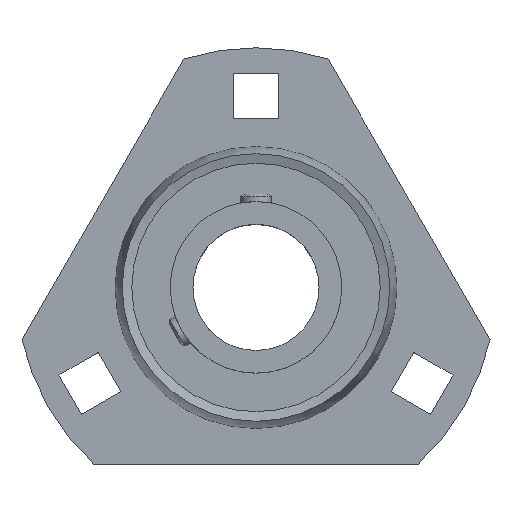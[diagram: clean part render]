
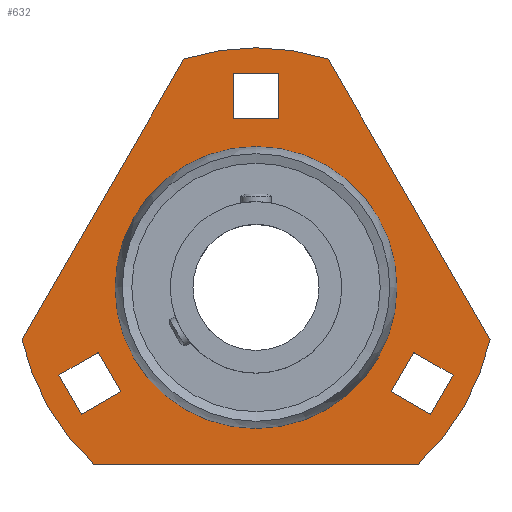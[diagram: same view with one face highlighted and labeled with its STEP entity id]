
A CAD part, top view. The second image highlights one B-rep face of the part: STEP entity #632.
In plain terms, the highlighted planar face has unit normal (0, 0, 1).
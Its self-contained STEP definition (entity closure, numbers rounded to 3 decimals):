
#122=CARTESIAN_POINT('',(-46.367,-10.311,2.0));
#123=VERTEX_POINT('',#122);
#130=CARTESIAN_POINT('',(-14.254,45.311,2.0));
#131=VERTEX_POINT('',#130);
#132=CARTESIAN_POINT('',(-46.367,-10.311,2.0));
#133=DIRECTION('',(0.5,0.866,0.0));
#134=VECTOR('',#133,64.226);
#135=LINE('',#132,#134);
#136=EDGE_CURVE('',#123,#131,#135,.T.);
#162=CARTESIAN_POINT('',(14.254,45.311,2.0));
#163=VERTEX_POINT('',#162);
#170=CARTESIAN_POINT('',(46.367,-10.311,2.0));
#171=VERTEX_POINT('',#170);
#172=CARTESIAN_POINT('',(14.254,45.311,2.0));
#173=DIRECTION('',(0.5,-0.866,0.0));
#174=VECTOR('',#173,64.226);
#175=LINE('',#172,#174);
#176=EDGE_CURVE('',#163,#171,#175,.T.);
#202=CARTESIAN_POINT('',(32.113,-35.,2.0));
#203=VERTEX_POINT('',#202);
#210=CARTESIAN_POINT('',(-32.113,-35.0,2.0));
#211=VERTEX_POINT('',#210);
#212=CARTESIAN_POINT('',(32.113,-35.0,2.0));
#213=DIRECTION('',(-1.0,0.0,0.0));
#214=VECTOR('',#213,64.226);
#215=LINE('',#212,#214);
#216=EDGE_CURVE('',#203,#211,#215,.T.);
#378=CARTESIAN_POINT('',(0.0,0.0,2.0));
#379=DIRECTION('',(0.0,0.0,-1.0));
#380=DIRECTION('',(-1.0,0.0,0.0));
#381=AXIS2_PLACEMENT_3D('',#378,#379,#380);
#382=CIRCLE('',#381,47.5);
#383=EDGE_CURVE('',#211,#123,#382,.T.);
#396=CARTESIAN_POINT('',(0.0,0.0,2.0));
#397=DIRECTION('',(0.0,0.0,-1.0));
#398=DIRECTION('',(-1.0,0.0,0.0));
#399=AXIS2_PLACEMENT_3D('',#396,#397,#398);
#400=CIRCLE('',#399,47.5);
#401=EDGE_CURVE('',#171,#203,#400,.T.);
#493=CARTESIAN_POINT('',(0.0,27.93,2.));
#494=VERTEX_POINT('',#493);
#495=CARTESIAN_POINT('',(0.0,0.0,2.0));
#496=DIRECTION('',(0.0,0.0,-1.0));
#497=DIRECTION('',(0.0,1.0,0.0));
#498=AXIS2_PLACEMENT_3D('',#495,#496,#497);
#499=CIRCLE('',#498,27.93);
#500=EDGE_CURVE('',#494,#494,#499,.T.);
#508=CARTESIAN_POINT('',(0.0,0.0,2.0));
#509=DIRECTION('',(0.0,0.0,-1.0));
#510=DIRECTION('',(-1.0,0.0,0.0));
#511=AXIS2_PLACEMENT_3D('',#508,#509,#510);
#512=PLANE('',#511);
#513=ORIENTED_EDGE('',*,*,#176,.F.);
#514=CARTESIAN_POINT('',(0.0,0.0,2.0));
#515=DIRECTION('',(0.0,0.0,-1.0));
#516=DIRECTION('',(-1.0,0.0,0.0));
#517=AXIS2_PLACEMENT_3D('',#514,#515,#516);
#518=CIRCLE('',#517,47.5);
#519=EDGE_CURVE('',#131,#163,#518,.T.);
#520=ORIENTED_EDGE('',*,*,#519,.F.);
#521=ORIENTED_EDGE('',*,*,#136,.F.);
#522=ORIENTED_EDGE('',*,*,#383,.F.);
#523=ORIENTED_EDGE('',*,*,#216,.F.);
#524=ORIENTED_EDGE('',*,*,#401,.F.);
#525=EDGE_LOOP('',(#513,#520,#521,#522,#523,#524));
#526=FACE_OUTER_BOUND('',#525,.T.);
#527=CARTESIAN_POINT('',(4.5,42.5,2.0));
#528=VERTEX_POINT('',#527);
#529=CARTESIAN_POINT('',(4.5,33.5,2.0));
#530=VERTEX_POINT('',#529);
#531=CARTESIAN_POINT('',(4.5,42.5,2.0));
#532=DIRECTION('',(0.0,-1.0,0.0));
#533=VECTOR('',#532,9.0);
#534=LINE('',#531,#533);
#535=EDGE_CURVE('',#528,#530,#534,.T.);
#536=ORIENTED_EDGE('',*,*,#535,.T.);
#537=CARTESIAN_POINT('',(-4.5,33.5,2.0));
#538=VERTEX_POINT('',#537);
#539=CARTESIAN_POINT('',(4.5,33.5,2.0));
#540=DIRECTION('',(-1.0,0.0,0.0));
#541=VECTOR('',#540,9.0);
#542=LINE('',#539,#541);
#543=EDGE_CURVE('',#530,#538,#542,.T.);
#544=ORIENTED_EDGE('',*,*,#543,.T.);
#545=CARTESIAN_POINT('',(-4.5,42.5,2.0));
#546=VERTEX_POINT('',#545);
#547=CARTESIAN_POINT('',(-4.5,33.5,2.0));
#548=DIRECTION('',(0.0,1.0,0.0));
#549=VECTOR('',#548,9.0);
#550=LINE('',#547,#549);
#551=EDGE_CURVE('',#538,#546,#550,.T.);
#552=ORIENTED_EDGE('',*,*,#551,.T.);
#553=CARTESIAN_POINT('',(-4.5,42.5,2.0));
#554=DIRECTION('',(1.0,0.0,0.0));
#555=VECTOR('',#554,9.0);
#556=LINE('',#553,#555);
#557=EDGE_CURVE('',#546,#528,#556,.T.);
#558=ORIENTED_EDGE('',*,*,#557,.T.);
#559=EDGE_LOOP('',(#536,#544,#552,#558));
#560=FACE_BOUND('',#559,.T.);
#561=CARTESIAN_POINT('',(-39.056,-17.353,2.0));
#562=VERTEX_POINT('',#561);
#563=CARTESIAN_POINT('',(-31.262,-12.853,2.0));
#564=VERTEX_POINT('',#563);
#565=CARTESIAN_POINT('',(-39.056,-17.353,2.0));
#566=DIRECTION('',(0.866,0.5,0.0));
#567=VECTOR('',#566,9.);
#568=LINE('',#565,#567);
#569=EDGE_CURVE('',#562,#564,#568,.T.);
#570=ORIENTED_EDGE('',*,*,#569,.T.);
#571=CARTESIAN_POINT('',(-26.762,-20.647,2.0));
#572=VERTEX_POINT('',#571);
#573=CARTESIAN_POINT('',(-31.262,-12.853,2.0));
#574=DIRECTION('',(0.5,-0.866,0.0));
#575=VECTOR('',#574,9.);
#576=LINE('',#573,#575);
#577=EDGE_CURVE('',#564,#572,#576,.T.);
#578=ORIENTED_EDGE('',*,*,#577,.T.);
#579=CARTESIAN_POINT('',(-34.556,-25.147,2.0));
#580=VERTEX_POINT('',#579);
#581=CARTESIAN_POINT('',(-26.762,-20.647,2.0));
#582=DIRECTION('',(-0.866,-0.5,0.0));
#583=VECTOR('',#582,9.);
#584=LINE('',#581,#583);
#585=EDGE_CURVE('',#572,#580,#584,.T.);
#586=ORIENTED_EDGE('',*,*,#585,.T.);
#587=CARTESIAN_POINT('',(-34.556,-25.147,2.0));
#588=DIRECTION('',(-0.5,0.866,0.0));
#589=VECTOR('',#588,9.0);
#590=LINE('',#587,#589);
#591=EDGE_CURVE('',#580,#562,#590,.T.);
#592=ORIENTED_EDGE('',*,*,#591,.T.);
#593=EDGE_LOOP('',(#570,#578,#586,#592));
#594=FACE_BOUND('',#593,.T.);
#595=CARTESIAN_POINT('',(34.556,-25.147,2.0));
#596=VERTEX_POINT('',#595);
#597=CARTESIAN_POINT('',(26.762,-20.647,2.0));
#598=VERTEX_POINT('',#597);
#599=CARTESIAN_POINT('',(34.556,-25.147,2.0));
#600=DIRECTION('',(-0.866,0.5,0.0));
#601=VECTOR('',#600,9.);
#602=LINE('',#599,#601);
#603=EDGE_CURVE('',#596,#598,#602,.T.);
#604=ORIENTED_EDGE('',*,*,#603,.T.);
#605=CARTESIAN_POINT('',(31.262,-12.853,2.0));
#606=VERTEX_POINT('',#605);
#607=CARTESIAN_POINT('',(26.762,-20.647,2.0));
#608=DIRECTION('',(0.5,0.866,0.0));
#609=VECTOR('',#608,9.);
#610=LINE('',#607,#609);
#611=EDGE_CURVE('',#598,#606,#610,.T.);
#612=ORIENTED_EDGE('',*,*,#611,.T.);
#613=CARTESIAN_POINT('',(39.056,-17.353,2.0));
#614=VERTEX_POINT('',#613);
#615=CARTESIAN_POINT('',(31.262,-12.853,2.0));
#616=DIRECTION('',(0.866,-0.5,0.0));
#617=VECTOR('',#616,9.);
#618=LINE('',#615,#617);
#619=EDGE_CURVE('',#606,#614,#618,.T.);
#620=ORIENTED_EDGE('',*,*,#619,.T.);
#621=CARTESIAN_POINT('',(39.056,-17.353,2.0));
#622=DIRECTION('',(-0.5,-0.866,0.0));
#623=VECTOR('',#622,9.0);
#624=LINE('',#621,#623);
#625=EDGE_CURVE('',#614,#596,#624,.T.);
#626=ORIENTED_EDGE('',*,*,#625,.T.);
#627=EDGE_LOOP('',(#604,#612,#620,#626));
#628=FACE_BOUND('',#627,.T.);
#629=ORIENTED_EDGE('',*,*,#500,.T.);
#630=EDGE_LOOP('',(#629));
#631=FACE_BOUND('',#630,.T.);
#632=ADVANCED_FACE('',(#526,#560,#594,#628,#631),#512,.F.);
